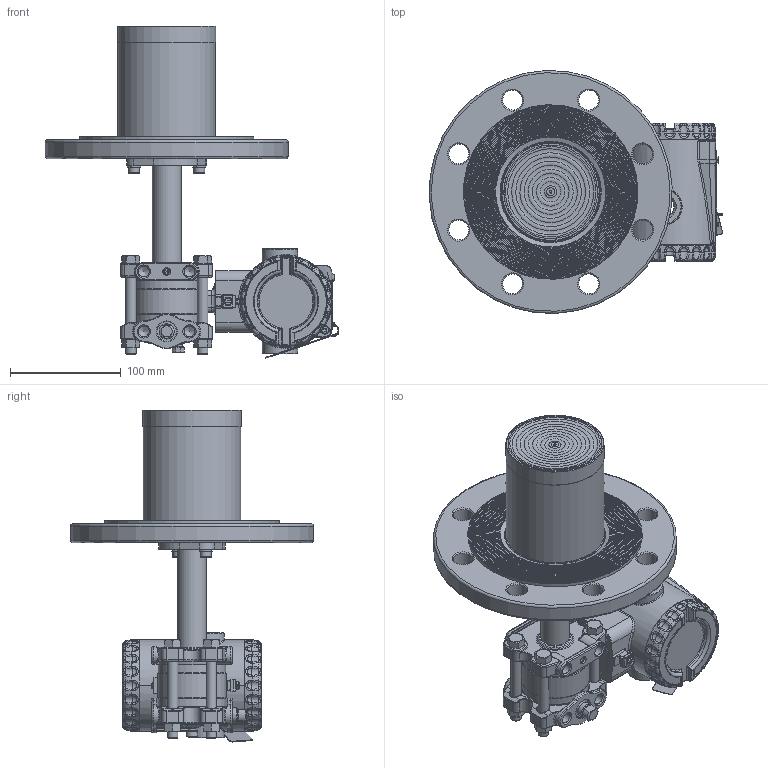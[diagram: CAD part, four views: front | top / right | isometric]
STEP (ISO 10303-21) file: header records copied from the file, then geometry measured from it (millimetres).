
FILE_DESCRIPTION(/* description */ (''),/* implementation_level */ '2;1');
FILE_NAME(/* name */ 'F:\Area\Desenvolvimento_2\Projects\Sensor\projetos\LD400-3d\dimensionais 3D clientes\LD400L\LD400L DN100 PN16 RF ext 100 ref 1-4NPT purga acima.stp',/* time_stamp */ '2023-02-23T17:23:51-03:00',/* author */ ('inventor02'),/* organization */ (''),/* preprocessor_version */ 'ST-DEVELOPER v17',/* originating_system */ 'Autodesk Inventor 2019',/* authorisation */ '');
FILE_SCHEMA (('CONFIG_CONTROL_DESIGN'));
Products named in the file (41): LD30XL DN100 PN16 RF ext 100 ref 1-4NPT purga acima; 204-0301-L-DN100 PN16 RF ext 100 purga acima; nivel fx3 com baixa diferencial 1-4NPT purga acima; involucro fx0-3 apos a usinagem final; flange diferencial std purga; 101-C-7484-01 flange selo nivel VR; 201-A-0504-tubo união teste 1; bujao 1-4NPT; Sangria; Porca 3-8 x 16 UNC; Paraf. 3-8 x 16 UNC; adaptação tubo x flanges 1-1-2 a 4pol; 101-B-0161-anel cortado do tubo - teste1; 101-B-0162-flange fixação tubo; ANSI B18.3.1M - M6x1 x 16; DIN 127 - A 6; flange DN100 PN16 ext 100; 096-B-0212-15; 101-B-7702-02 ext 4-100; 101-C-0141-09; Carcaça 400 com tampas e plaqueta sem letras; 101-D-0845-05 carcaça LD400 sem letras; 101-B-3614-03-tampa 400 sem letras; Tampa visor 400 montada sem letras; 101-B-3612-05 tampa visor 400 sem letras; 101-A-6107; oring 2034; 00034775-0; WHW_250; DIN 915 - M6 x 10; Chapa aterramento externo; 201-A-1771-02 inserto terra recartilhado; AS 1969 - ST4,2; ISO 1207 - M4 x 8; ANSI B18.3.1M - M4x0,7 x 8; Subconjunto plaqueta 400; plaqueta 400 em branco; Parafuso da Plaqueta; Rebite da Plaqueta; 096-A-0169-03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
Assembly tree (50 placements, depth 4):
  LD30XL DN100 PN16 RF ext 100 ref 1-4NPT purga acima
    204-0301-L-DN100 PN16 RF ext 100 purga acima
      nivel fx3 com baixa diferencial 1-4NPT purga acima
        involucro fx0-3 apos a usinagem final
        flange diferencial std purga
        101-C-7484-01 flange selo nivel VR
        201-A-0504-tubo união teste 1
        DIN 915 - M6 x 10
        bujao 1-4NPT
        Sangria
        Porca 3-8 x 16 UNC  x4
        Paraf. 3-8 x 16 UNC  x4
      adaptação tubo x flanges 1-1-2 a 4pol
        101-B-0161-anel cortado do tubo - teste1
        101-B-0162-flange fixação tubo
        ANSI B18.3.1M - M6x1 x 16  x2
        DIN 127 - A 6  x2
      flange DN100 PN16 ext 100
        096-B-0212-15
        101-B-7702-02 ext 4-100
        101-C-0141-09
    Carcaça 400 com tampas e plaqueta sem letras
      101-D-0845-05 carcaça LD400 sem letras
      101-B-3614-03-tampa 400 sem letras
      Tampa visor 400 montada sem letras
        101-B-3612-05 tampa visor 400 sem letras
        101-A-6107
        oring 2034
        00034775-0
        WHW_250
      DIN 915 - M6 x 10
      Chapa aterramento externo
      201-A-1771-02 inserto terra recartilhado
      AS 1969 - ST4,2
      ISO 1207 - M4 x 8
      ANSI B18.3.1M - M4x0,7 x 8  x2
      Subconjunto plaqueta 400
        plaqueta 400 em branco
        Parafuso da Plaqueta
        Rebite da Plaqueta
        096-A-0169-03
        101-A-0502-01
Bounding box: 265.65 x 219.79 x 300.42 mm (x, y, z)
Volume: 1501583.1 mm3; surface area: 417031.4 mm2
Topology: 43 solids, 43 shells, 2834 faces, 6836 edges, 4113 vertices
Faces by surface type: plane 751, cylinder 668, bspline 604, torus 505, cone 230, sphere 76
Full cylindrical faces by diameter (mm): 2 x4, 2.1 x1, 2.2 x1, 2.459 x3, 2.5 x1, 2.7 x1, 2.8 x1, 3 x4, 3.242 x3, 3.5 x1, 3.571 x1, 4 x5, 4.3 x2, 4.4 x1, 4.917 x4, 5 x1, 5.5 x3, 6 x6, 6.1 x2, 6.2 x1, 6.647 x1, 7 x5, 7.6 x2, 7.798 x4, 8 x1, 9.525 x4, 9.728 x6, 10 x2, 10.5 x8, 10.719 x2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
Entity records: 100426 total; most frequent: CARTESIAN_POINT 37345, DIRECTION 13072, ORIENTED_EDGE 12912, EDGE_CURVE 6456, AXIS2_PLACEMENT_3D 5619, VERTEX_POINT 3919, CIRCLE 3272, EDGE_LOOP 2907
